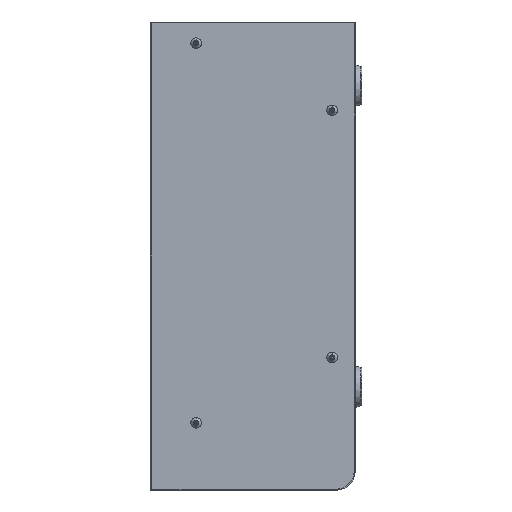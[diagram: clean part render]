
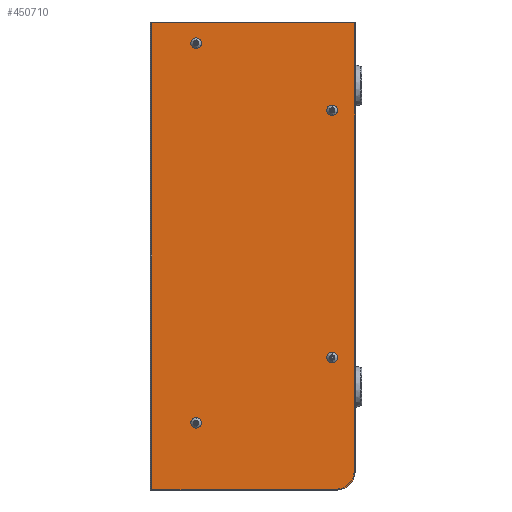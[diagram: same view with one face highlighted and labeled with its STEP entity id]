
A CAD part, left-side view. The second image highlights one B-rep face of the part: STEP entity #450710.
In plain terms, the highlighted planar face has unit normal (-1, 0, 0).
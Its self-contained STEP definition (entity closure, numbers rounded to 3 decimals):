
#53472 = CARTESIAN_POINT ( 'NONE',  ( 0., 13., -193. ) ) ;
#53875 = DIRECTION ( 'NONE',  ( 0., 0., -1. ) ) ;
#53878 = DIRECTION ( 'NONE',  ( -1., 0., 0. ) ) ;
#53881 = CARTESIAN_POINT ( 'NONE',  ( 0., 13., -190. ) ) ;
#53882 = AXIS2_PLACEMENT_3D ( 'NONE', #53881, #53878, #53875 ) ;
#53884 = CIRCLE ( 'NONE', #53882, 3. ) ;
#55023 = CARTESIAN_POINT ( 'NONE',  ( 0., 13., -187. ) ) ;
#66678 = DIRECTION ( 'NONE',  ( 0., 0., -1. ) ) ;
#66680 = DIRECTION ( 'NONE',  ( -1., 0., 0. ) ) ;
#66681 = AXIS2_PLACEMENT_3D ( 'NONE', #66790, #66680, #66678 ) ;
#66683 = CIRCLE ( 'NONE', #66681, 3. ) ;
#66790 = CARTESIAN_POINT ( 'NONE',  ( 0., 13., -50. ) ) ;
#70033 = CARTESIAN_POINT ( 'NONE',  ( 0., 13., -47. ) ) ;
#72260 = CARTESIAN_POINT ( 'NONE',  ( 0., 90., -224. ) ) ;
#72495 = CARTESIAN_POINT ( 'NONE',  ( 0., 13., -53. ) ) ;
#76371 = CARTESIAN_POINT ( 'NONE',  ( 0., 90., -230. ) ) ;
#78250 = DIRECTION ( 'NONE',  ( 0., 0., -1. ) ) ;
#78432 = DIRECTION ( 'NONE',  ( -1., 0., 0. ) ) ;
#78455 = AXIS2_PLACEMENT_3D ( 'NONE', #78461, #78432, #78250 ) ;
#78456 = CIRCLE ( 'NONE', #78455, 3. ) ;
#78461 = CARTESIAN_POINT ( 'NONE',  ( 0., 90., -227. ) ) ;
#79355 = CARTESIAN_POINT ( 'NONE',  ( 0., 90., -15. ) ) ;
#80806 = CARTESIAN_POINT ( 'NONE',  ( 0., 90., -9. ) ) ;
#81745 = DIRECTION ( 'NONE',  ( 0., 0., -1. ) ) ;
#81747 = DIRECTION ( 'NONE',  ( -1., 0., 0. ) ) ;
#81749 = CARTESIAN_POINT ( 'NONE',  ( 0., 90., -12. ) ) ;
#81751 = AXIS2_PLACEMENT_3D ( 'NONE', #81749, #81747, #81745 ) ;
#81752 = CIRCLE ( 'NONE', #81751, 3. ) ;
#157575 = VERTEX_POINT ( 'NONE', #53472 ) ;
#157655 = EDGE_CURVE ( 'NONE', #157575, #157857, #53884, .T. ) ;
#157857 = VERTEX_POINT ( 'NONE', #55023 ) ;
#159150 = EDGE_CURVE ( 'NONE', #160204, #159571, #66683, .T. ) ;
#159571 = VERTEX_POINT ( 'NONE', #70033 ) ;
#160150 = VERTEX_POINT ( 'NONE', #72260 ) ;
#160204 = VERTEX_POINT ( 'NONE', #72495 ) ;
#160903 = VERTEX_POINT ( 'NONE', #76371 ) ;
#161174 = EDGE_CURVE ( 'NONE', #160903, #160150, #78456, .T. ) ;
#161273 = VERTEX_POINT ( 'NONE', #79355 ) ;
#161545 = VERTEX_POINT ( 'NONE', #80806 ) ;
#161750 = EDGE_CURVE ( 'NONE', #161273, #161545, #81752, .T. ) ;
#180353 = DIRECTION ( 'NONE',  ( 0., 0., -1. ) ) ;
#180356 = DIRECTION ( 'NONE',  ( -1., 0., 0. ) ) ;
#180357 = CARTESIAN_POINT ( 'NONE',  ( 0., 90., -12. ) ) ;
#180361 = AXIS2_PLACEMENT_3D ( 'NONE', #180357, #180356, #180353 ) ;
#180363 = CIRCLE ( 'NONE', #180361, 3. ) ;
#180493 = CIRCLE ( 'NONE', #180725, 10. ) ;
#180500 = CARTESIAN_POINT ( 'NONE',  ( 0., 10., -265. ) ) ;
#180513 = CARTESIAN_POINT ( 'NONE',  ( 0., 115., -265. ) ) ;
#180524 = DIRECTION ( 'NONE',  ( 0., -1., 0. ) ) ;
#180526 = VECTOR ( 'NONE', #180524, 1000. ) ;
#180566 = CARTESIAN_POINT ( 'NONE',  ( 0., 116., -265. ) ) ;
#180568 = LINE ( 'NONE', #180566, #180526 ) ;
#180616 = FACE_BOUND ( 'NONE', #450798, .T. ) ;
#180619 = FACE_BOUND ( 'NONE', #450781, .T. ) ;
#180621 = FACE_OUTER_BOUND ( 'NONE', #450616, .T. ) ;
#180625 = FACE_BOUND ( 'NONE', #450494, .T. ) ;
#180627 = FACE_BOUND ( 'NONE', #450713, .T. ) ;
#180684 = CARTESIAN_POINT ( 'NONE',  ( 0., 0., 0. ) ) ;
#180688 = DIRECTION ( 'NONE',  ( 0., 0., 1. ) ) ;
#180692 = VECTOR ( 'NONE', #180688, 1000. ) ;
#180695 = CARTESIAN_POINT ( 'NONE',  ( 0., 0., 0. ) ) ;
#180698 = LINE ( 'NONE', #180695, #180692 ) ;
#180712 = CARTESIAN_POINT ( 'NONE',  ( 0., 0., -255. ) ) ;
#180716 = DIRECTION ( 'NONE',  ( 0., 0., -1. ) ) ;
#180720 = DIRECTION ( 'NONE',  ( -1., 0., 0. ) ) ;
#180723 = CARTESIAN_POINT ( 'NONE',  ( 0., 10., -255. ) ) ;
#180725 = AXIS2_PLACEMENT_3D ( 'NONE', #180723, #180720, #180716 ) ;
#180761 = DIRECTION ( 'NONE',  ( 0., 0., -1. ) ) ;
#180764 = DIRECTION ( 'NONE',  ( -1., 0., 0. ) ) ;
#180767 = CARTESIAN_POINT ( 'NONE',  ( 0., 13., -50. ) ) ;
#180769 = AXIS2_PLACEMENT_3D ( 'NONE', #180767, #180764, #180761 ) ;
#180772 = CIRCLE ( 'NONE', #180769, 3. ) ;
#180782 = DIRECTION ( 'NONE',  ( 0., 0., -1. ) ) ;
#180784 = DIRECTION ( 'NONE',  ( 1., 0., 0. ) ) ;
#180787 = CARTESIAN_POINT ( 'NONE',  ( 0., 116., 0. ) ) ;
#180788 = AXIS2_PLACEMENT_3D ( 'NONE', #180787, #180784, #180782 ) ;
#180794 = PLANE ( 'NONE',  #180788 ) ;
#180857 = DIRECTION ( 'NONE',  ( 0., 0., -1. ) ) ;
#180861 = CARTESIAN_POINT ( 'NONE',  ( 0., 115., 0. ) ) ;
#180872 = LINE ( 'NONE', #180861, #181084 ) ;
#180890 = CARTESIAN_POINT ( 'NONE',  ( 0., 115., 0. ) ) ;
#180896 = DIRECTION ( 'NONE',  ( 0., -1., 0. ) ) ;
#180897 = VECTOR ( 'NONE', #180896, 1000. ) ;
#180924 = LINE ( 'NONE', #180957, #180897 ) ;
#180957 = CARTESIAN_POINT ( 'NONE',  ( 0., 116., 0. ) ) ;
#181012 = DIRECTION ( 'NONE',  ( 0., 0., -1. ) ) ;
#181016 = DIRECTION ( 'NONE',  ( -1., 0., 0. ) ) ;
#181017 = CARTESIAN_POINT ( 'NONE',  ( 0., 90., -227. ) ) ;
#181018 = AXIS2_PLACEMENT_3D ( 'NONE', #181017, #181016, #181012 ) ;
#181073 = CIRCLE ( 'NONE', #181018, 3. ) ;
#181084 = VECTOR ( 'NONE', #180857, 1000. ) ;
#181130 = DIRECTION ( 'NONE',  ( 0., 0., -1. ) ) ;
#181134 = DIRECTION ( 'NONE',  ( -1., 0., 0. ) ) ;
#181137 = CARTESIAN_POINT ( 'NONE',  ( 0., 13., -190. ) ) ;
#181140 = AXIS2_PLACEMENT_3D ( 'NONE', #181137, #181134, #181130 ) ;
#181142 = CIRCLE ( 'NONE', #181140, 3. ) ;
#450489 = ORIENTED_EDGE ( 'NONE', *, *, #159150, .F. ) ;
#450494 = EDGE_LOOP ( 'NONE', ( #450837, #450612 ) ) ;
#450607 = EDGE_CURVE ( 'NONE', #161545, #161273, #180363, .T. ) ;
#450612 = ORIENTED_EDGE ( 'NONE', *, *, #161750, .F. ) ;
#450616 = EDGE_LOOP ( 'NONE', ( #450625, #450642, #450652, #450660, #450772 ) ) ;
#450625 = ORIENTED_EDGE ( 'NONE', *, *, #450629, .T. ) ;
#450629 = EDGE_CURVE ( 'NONE', #450635, #450637, #180568, .T. ) ;
#450635 = VERTEX_POINT ( 'NONE', #180513 ) ;
#450637 = VERTEX_POINT ( 'NONE', #180500 ) ;
#450642 = ORIENTED_EDGE ( 'NONE', *, *, #450647, .T. ) ;
#450647 = EDGE_CURVE ( 'NONE', #450637, #450649, #180493, .T. ) ;
#450649 = VERTEX_POINT ( 'NONE', #180712 ) ;
#450652 = ORIENTED_EDGE ( 'NONE', *, *, #450655, .T. ) ;
#450655 = EDGE_CURVE ( 'NONE', #450649, #450657, #180698, .T. ) ;
#450657 = VERTEX_POINT ( 'NONE', #180684 ) ;
#450660 = ORIENTED_EDGE ( 'NONE', *, *, #450762, .F. ) ;
#450710 = ADVANCED_FACE ( 'NONE', ( #180627, #180625, #180621, #180619, #180616 ), #180794, .F. ) ;
#450713 = EDGE_LOOP ( 'NONE', ( #450719, #450489 ) ) ;
#450719 = ORIENTED_EDGE ( 'NONE', *, *, #450724, .F. ) ;
#450724 = EDGE_CURVE ( 'NONE', #159571, #160204, #180772, .T. ) ;
#450762 = EDGE_CURVE ( 'NONE', #450765, #450657, #180924, .T. ) ;
#450765 = VERTEX_POINT ( 'NONE', #180890 ) ;
#450772 = ORIENTED_EDGE ( 'NONE', *, *, #450777, .T. ) ;
#450777 = EDGE_CURVE ( 'NONE', #450765, #450635, #180872, .T. ) ;
#450781 = EDGE_LOOP ( 'NONE', ( #450788, #450793 ) ) ;
#450788 = ORIENTED_EDGE ( 'NONE', *, *, #450791, .F. ) ;
#450791 = EDGE_CURVE ( 'NONE', #160150, #160903, #181073, .T. ) ;
#450793 = ORIENTED_EDGE ( 'NONE', *, *, #161174, .F. ) ;
#450798 = EDGE_LOOP ( 'NONE', ( #450807, #450818 ) ) ;
#450807 = ORIENTED_EDGE ( 'NONE', *, *, #450810, .F. ) ;
#450810 = EDGE_CURVE ( 'NONE', #157857, #157575, #181142, .T. ) ;
#450818 = ORIENTED_EDGE ( 'NONE', *, *, #157655, .F. ) ;
#450837 = ORIENTED_EDGE ( 'NONE', *, *, #450607, .F. ) ;
